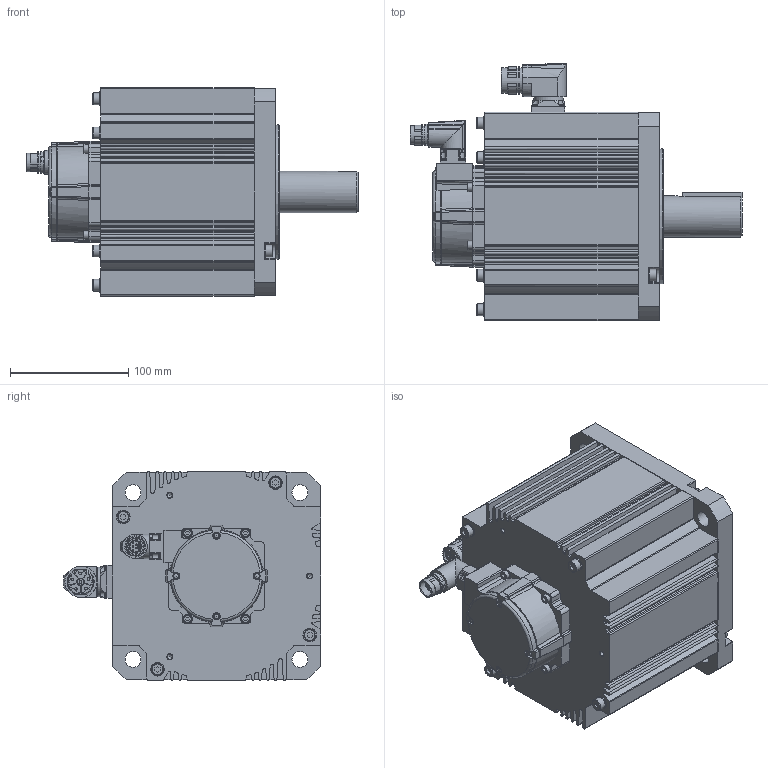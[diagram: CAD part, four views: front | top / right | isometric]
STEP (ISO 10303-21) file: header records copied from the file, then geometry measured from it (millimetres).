
FILE_DESCRIPTION(/* description */ ('STEP AP203'),/* implementation_level */ '2;1');
FILE_NAME(/* name */ 'MDMF404L1H9M',/* time_stamp */ '2026-06-09T14:01:14+02:00',/* author */ ('License CC BY-ND 4.0'),/* organization */ ('CADENAS'),/* preprocessor_version */ 'ST-DEVELOPER v20',/* originating_system */ 'PARTsolutions',/* authorisation */ ' ');
FILE_SCHEMA (('CONFIG_CONTROL_DESIGN'));
Length unit declared in the file: millimetre
Products named in the file (4): MDMF404L1H9M; MDMF404L1H9M-motor; BGC106N00001200000; AGC047N0000150A000_EC
Assembly tree (3 placements, depth 2):
  MDMF404L1H9M
    MDMF404L1H9M-motor
    BGC106N00001200000
    AGC047N0000150A000_EC
Bounding box: 281.25 x 218.1 x 176.6 mm (x, y, z)
Volume: 4457480.9 mm3; surface area: 245573.2 mm2
Topology: 3 solids, 3 shells, 1070 faces, 2812 edges, 1833 vertices
Faces by surface type: plane 564, cylinder 375, cone 51, bspline 45, torus 23, sphere 12
Full cylindrical faces by diameter (mm): 1.25 x12, 2.232 x6, 2.459 x1, 2.8 x1, 4.134 x3, 5.5 x5, 6 x4, 7 x4, 8 x4, 10 x8, 11.5 x8, 13.4 x1, 13.5 x4, 15.54 x1, 16 x1, 16.2 x1, 19.7 x1, 21.6 x1, 24.1 x1, 35 x1, 52 x1, 114.3 x1
Entity records: 32927 total; most frequent: CARTESIAN_POINT 6735, DIRECTION 5552, ORIENTED_EDGE 5266, EDGE_CURVE 2633, AXIS2_PLACEMENT_3D 2029, VERTEX_POINT 1783, LINE 1494, VECTOR 1494
